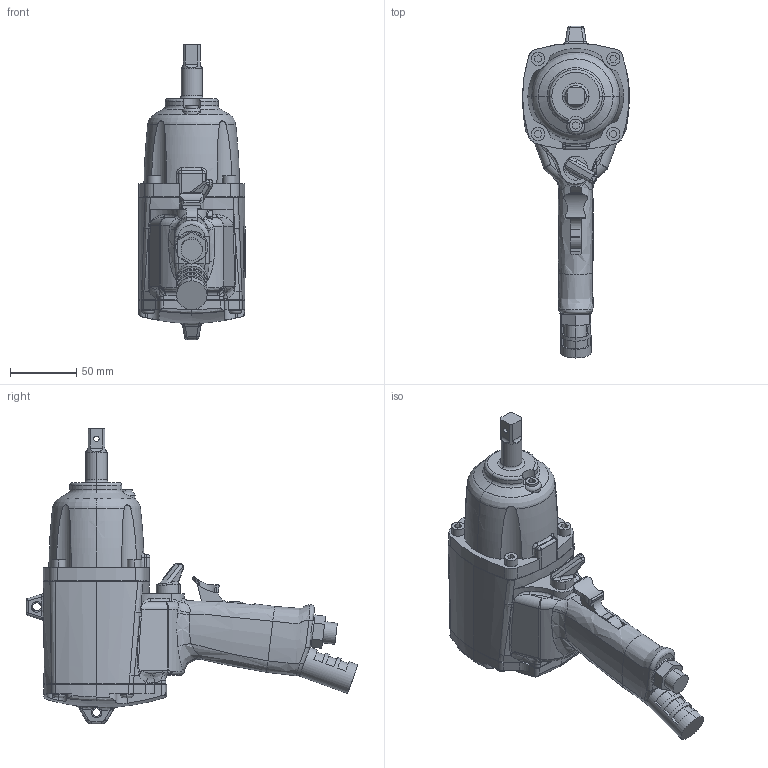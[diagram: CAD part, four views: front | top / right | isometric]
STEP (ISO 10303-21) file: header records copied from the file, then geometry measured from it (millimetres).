
FILE_DESCRIPTION (( 'STEP AP203' ), '1' );
FILE_NAME ('UX-1400.STEP', '2006-09-04T01:03:35', ( '' ), ( '' ), 'SwSTEP 2.0', 'SolidWorks 2003240', '' );
FILE_SCHEMA (( 'CONFIG_CONTROL_DESIGN' ));
Products named in the file (7): 0261077_UX-1400_蹬怮椔; UX-1400; 1954393_UX-1400_蹬怮椔; 1953192_UX-1400_蹬怮椔; 1950253_UX-1400_蹬怮椔; 1950123_UX-1400_蹬怮椔; 0232124_UX-1400_蹬怮椔
Assembly tree (6 placements, depth 2):
  UX-1400
    0232124_UX-1400_蹬怮椔
    1953192_UX-1400_蹬怮椔
    1954393_UX-1400_蹬怮椔
    1950253_UX-1400_蹬怮椔
    0261077_UX-1400_蹬怮椔
    1950123_UX-1400_蹬怮椔
Bounding box: 80.4 x 249.76 x 222.5 mm (x, y, z)
Volume: 1009786.4 mm3; surface area: 109482.8 mm2
Topology: 6 solids, 6 shells, 932 faces, 2480 edges, 1584 vertices
Faces by surface type: plane 413, bspline 239, cylinder 233, torus 31, sphere 13, cone 3
Entity records: 91237 total; most frequent: CARTESIAN_POINT 70111, ORIENTED_EDGE 4920, DIRECTION 3176, EDGE_CURVE 2460, VERTEX_POINT 1584, AXIS2_PLACEMENT_3D 1154, B_SPLINE_CURVE_WITH_KNOTS 1094, EDGE_LOOP 986
